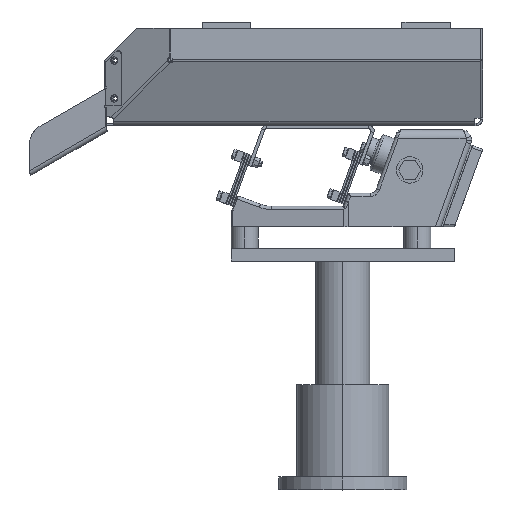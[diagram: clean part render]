
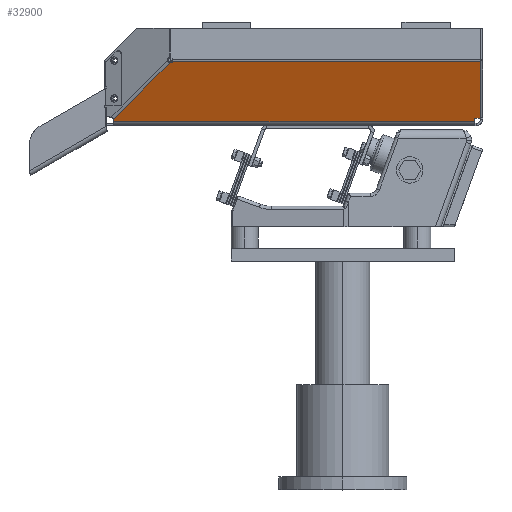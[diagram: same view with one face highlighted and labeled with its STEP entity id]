
A CAD part, top view. The second image highlights one B-rep face of the part: STEP entity #32900.
In plain terms, the highlighted planar face has unit normal (0, -0.385, 0.923).
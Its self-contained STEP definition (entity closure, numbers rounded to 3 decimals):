
#248 = CARTESIAN_POINT ( 'NONE',  ( -199.383, 128.069, 74.177 ) ) ;
#549 = LINE ( 'NONE', #36875, #9732 ) ;
#1112 = VECTOR ( 'NONE', #36762, 1000. ) ;
#1140 = CARTESIAN_POINT ( 'NONE',  ( -253.622, 75.712, 52.362 ) ) ;
#1332 = LINE ( 'NONE', #36522, #1112 ) ;
#2984 = DIRECTION ( 'NONE',  ( 0., 0.385, -0.923 ) ) ;
#2998 = VERTEX_POINT ( 'NONE', #15698 ) ;
#3218 = DIRECTION ( 'NONE',  ( 0., 0.923, 0.385 ) ) ;
#3572 = CARTESIAN_POINT ( 'NONE',  ( -199.383, 70.043, 50. ) ) ;
#5836 = CARTESIAN_POINT ( 'NONE',  ( -376.522, 70.043, 50. ) ) ;
#6082 = PLANE ( 'NONE',  #15586 ) ;
#6611 = CARTESIAN_POINT ( 'NONE',  ( -199.383, 128.972, 74.554 ) ) ;
#7525 = VERTEX_POINT ( 'NONE', #24945 ) ;
#8119 = EDGE_CURVE ( 'NONE', #17648, #12021, #12723, .T. ) ;
#8186 = VECTOR ( 'NONE', #27591, 1000. ) ;
#8668 = CARTESIAN_POINT ( 'NONE',  ( 86.407, 128.972, 74.554 ) ) ;
#8786 = LINE ( 'NONE', #45589, #13694 ) ;
#9439 = VERTEX_POINT ( 'NONE', #31953 ) ;
#9732 = VECTOR ( 'NONE', #29263, 1000. ) ;
#10243 = EDGE_CURVE ( 'NONE', #17648, #33846, #32304, .T. ) ;
#12021 = VERTEX_POINT ( 'NONE', #8668 ) ;
#12723 = LINE ( 'NONE', #27443, #19661 ) ;
#13103 = VECTOR ( 'NONE', #28087, 1000. ) ;
#13694 = VECTOR ( 'NONE', #16819, 1000. ) ;
#14429 = EDGE_CURVE ( 'NONE', #33846, #25340, #27158, .T. ) ;
#15032 = VERTEX_POINT ( 'NONE', #26585 ) ;
#15480 = EDGE_CURVE ( 'NONE', #38516, #9439, #1332, .T. ) ;
#15544 = LINE ( 'NONE', #44522, #45697 ) ;
#15586 = AXIS2_PLACEMENT_3D ( 'NONE', #5836, #2984, #3218 ) ;
#15698 = CARTESIAN_POINT ( 'NONE',  ( 86.407, 76.774, 52.804 ) ) ;
#16819 = DIRECTION ( 'NONE',  ( 0.678, 0.678, 0.283 ) ) ;
#17648 = VERTEX_POINT ( 'NONE', #6611 ) ;
#19661 = VECTOR ( 'NONE', #20764, 1000. ) ;
#19813 = ORIENTED_EDGE ( 'NONE', *, *, #10243, .T. ) ;
#20764 = DIRECTION ( 'NONE',  ( 1., 0., 0. ) ) ;
#21000 = ORIENTED_EDGE ( 'NONE', *, *, #14429, .T. ) ;
#21663 = EDGE_LOOP ( 'NONE', ( #27895, #33751, #37095, #27776, #19813, #21000, #28455, #28068, #30809 ) ) ;
#22586 = VECTOR ( 'NONE', #24911, 1000. ) ;
#22887 = DIRECTION ( 'NONE',  ( 0., 0.923, 0.385 ) ) ;
#24911 = DIRECTION ( 'NONE',  ( 1., 0., 0. ) ) ;
#24945 = CARTESIAN_POINT ( 'NONE',  ( 80.978, 76.774, 52.804 ) ) ;
#25340 = VERTEX_POINT ( 'NONE', #33614 ) ;
#26585 = CARTESIAN_POINT ( 'NONE',  ( 80.978, 73.612, 51.487 ) ) ;
#27158 = LINE ( 'NONE', #45225, #13103 ) ;
#27443 = CARTESIAN_POINT ( 'NONE',  ( -376.522, 128.972, 74.554 ) ) ;
#27499 = EDGE_CURVE ( 'NONE', #38516, #25340, #8786, .T. ) ;
#27591 = DIRECTION ( 'NONE',  ( -1., 0., 0. ) ) ;
#27776 = ORIENTED_EDGE ( 'NONE', *, *, #8119, .F. ) ;
#27895 = ORIENTED_EDGE ( 'NONE', *, *, #34401, .T. ) ;
#28058 = LINE ( 'NONE', #34967, #8186 ) ;
#28068 = ORIENTED_EDGE ( 'NONE', *, *, #15480, .T. ) ;
#28087 = DIRECTION ( 'NONE',  ( -1., 0., 0. ) ) ;
#28455 = ORIENTED_EDGE ( 'NONE', *, *, #27499, .F. ) ;
#28481 = LINE ( 'NONE', #42961, #22586 ) ;
#29263 = DIRECTION ( 'NONE',  ( 0., 0.923, 0.385 ) ) ;
#30809 = ORIENTED_EDGE ( 'NONE', *, *, #44751, .F. ) ;
#31953 = CARTESIAN_POINT ( 'NONE',  ( -253.622, 73.612, 51.487 ) ) ;
#32304 = LINE ( 'NONE', #3572, #39353 ) ;
#32543 = DIRECTION ( 'NONE',  ( 0., -0.923, -0.385 ) ) ;
#32900 = ADVANCED_FACE ( 'NONE', ( #46212 ), #6082, .F. ) ;
#33614 = CARTESIAN_POINT ( 'NONE',  ( -201.266, 128.069, 74.177 ) ) ;
#33751 = ORIENTED_EDGE ( 'NONE', *, *, #35868, .T. ) ;
#33846 = VERTEX_POINT ( 'NONE', #248 ) ;
#34401 = EDGE_CURVE ( 'NONE', #15032, #7525, #549, .T. ) ;
#34967 = CARTESIAN_POINT ( 'NONE',  ( -376.522, 73.612, 51.487 ) ) ;
#35868 = EDGE_CURVE ( 'NONE', #7525, #2998, #28481, .T. ) ;
#36522 = CARTESIAN_POINT ( 'NONE',  ( -253.622, 70.043, 50. ) ) ;
#36762 = DIRECTION ( 'NONE',  ( 0., -0.923, -0.385 ) ) ;
#36875 = CARTESIAN_POINT ( 'NONE',  ( 80.978, 70.043, 50. ) ) ;
#37095 = ORIENTED_EDGE ( 'NONE', *, *, #41620, .T. ) ;
#38516 = VERTEX_POINT ( 'NONE', #1140 ) ;
#39353 = VECTOR ( 'NONE', #32543, 1000. ) ;
#41620 = EDGE_CURVE ( 'NONE', #2998, #12021, #15544, .T. ) ;
#42961 = CARTESIAN_POINT ( 'NONE',  ( -376.522, 76.774, 52.804 ) ) ;
#44522 = CARTESIAN_POINT ( 'NONE',  ( 86.407, 70.043, 50. ) ) ;
#44751 = EDGE_CURVE ( 'NONE', #15032, #9439, #28058, .T. ) ;
#45225 = CARTESIAN_POINT ( 'NONE',  ( -376.522, 128.069, 74.177 ) ) ;
#45589 = CARTESIAN_POINT ( 'NONE',  ( -257.826, 71.509, 50.611 ) ) ;
#45697 = VECTOR ( 'NONE', #22887, 1000. ) ;
#46212 = FACE_OUTER_BOUND ( 'NONE', #21663, .T. ) ;
